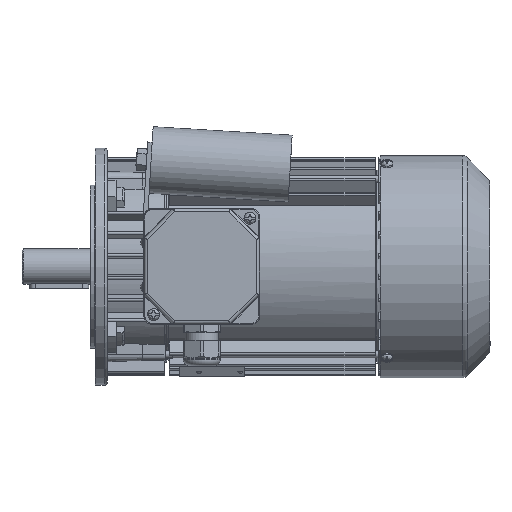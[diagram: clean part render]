
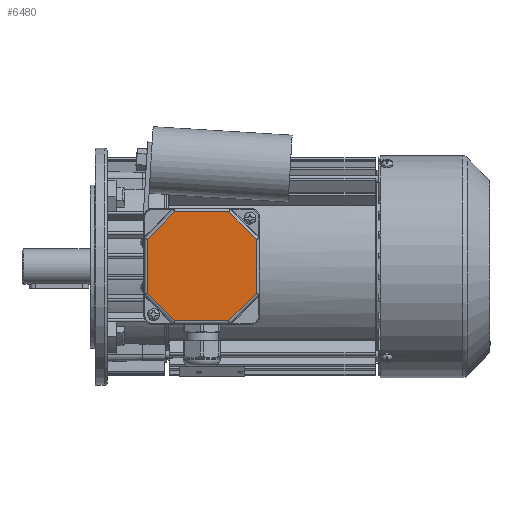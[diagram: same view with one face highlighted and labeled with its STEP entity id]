
A CAD part, top view. The second image highlights one B-rep face of the part: STEP entity #6480.
In plain terms, the highlighted planar face has unit normal (0, 0, 1).
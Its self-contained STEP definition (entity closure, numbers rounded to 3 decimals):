
#6480 = ADVANCED_FACE( '', ( #13379 ), #13380, .T. );
#13379 = FACE_OUTER_BOUND( '', #30231, .T. );
#13380 = PLANE( '', #30232 );
#30231 = EDGE_LOOP( '', ( #51913, #51914, #51915, #51916, #51917, #51918, #51919, #51920 ) );
#30232 = AXIS2_PLACEMENT_3D( '', #51921, #51922, #51923 );
#51913 = ORIENTED_EDGE( '', *, *, #63727, .T. );
#51914 = ORIENTED_EDGE( '', *, *, #62099, .T. );
#51915 = ORIENTED_EDGE( '', *, *, #64331, .T. );
#51916 = ORIENTED_EDGE( '', *, *, #62618, .T. );
#51917 = ORIENTED_EDGE( '', *, *, #64678, .T. );
#51918 = ORIENTED_EDGE( '', *, *, #62628, .T. );
#51919 = ORIENTED_EDGE( '', *, *, #64679, .T. );
#51920 = ORIENTED_EDGE( '', *, *, #63882, .T. );
#51921 = CARTESIAN_POINT( '', ( -39., 39., 12. ) );
#51922 = DIRECTION( '', ( 0., 0., 1. ) );
#51923 = DIRECTION( '', ( 1., 0., 0. ) );
#62099 = EDGE_CURVE( '', #74989, #74990, #74991, .T. );
#62618 = EDGE_CURVE( '', #75676, #75677, #75678, .T. );
#62628 = EDGE_CURVE( '', #73124, #70504, #75692, .T. );
#63727 = EDGE_CURVE( '', #75847, #74989, #77112, .F. );
#63882 = EDGE_CURVE( '', #74848, #75847, #77297, .T. );
#64331 = EDGE_CURVE( '', #74990, #75676, #77819, .F. );
#64678 = EDGE_CURVE( '', #75677, #73124, #78190, .F. );
#64679 = EDGE_CURVE( '', #70504, #74848, #78191, .F. );
#70504 = VERTEX_POINT( '', #85978 );
#73124 = VERTEX_POINT( '', #93269 );
#74848 = VERTEX_POINT( '', #97673 );
#74989 = VERTEX_POINT( '', #98153 );
#74990 = VERTEX_POINT( '', #98154 );
#74991 = LINE( '', #98155, #98156 );
#75676 = VERTEX_POINT( '', #99947 );
#75677 = VERTEX_POINT( '', #99948 );
#75678 = LINE( '', #99949, #99950 );
#75692 = LINE( '', #99965, #99966 );
#75847 = VERTEX_POINT( '', #100480 );
#77112 = LINE( '', #103832, #103833 );
#77297 = LINE( '', #104315, #104316 );
#77819 = LINE( '', #105735, #105736 );
#78190 = LINE( '', #106502, #106503 );
#78191 = LINE( '', #106504, #106505 );
#85978 = CARTESIAN_POINT( '', ( -18.255, -36.825, 12. ) );
#93269 = CARTESIAN_POINT( '', ( -36.825, -18.255, 12. ) );
#97673 = CARTESIAN_POINT( '', ( 18.255, -36.825, 12. ) );
#98153 = CARTESIAN_POINT( '', ( 36.825, 18.255, 12. ) );
#98154 = CARTESIAN_POINT( '', ( 18.255, 36.825, 12. ) );
#98155 = CARTESIAN_POINT( '', ( 17.679, 37.401, 12. ) );
#98156 = VECTOR( '', #115770, 1000. );
#99947 = CARTESIAN_POINT( '', ( -18.255, 36.825, 12. ) );
#99948 = CARTESIAN_POINT( '', ( -36.825, 18.255, 12. ) );
#99949 = CARTESIAN_POINT( '', ( -37.401, 17.679, 12. ) );
#99950 = VECTOR( '', #116249, 1000. );
#99965 = CARTESIAN_POINT( '', ( -17.679, -37.401, 12. ) );
#99966 = VECTOR( '', #116266, 1000. );
#100480 = CARTESIAN_POINT( '', ( 36.825, -18.255, 12. ) );
#103832 = CARTESIAN_POINT( '', ( 36.825, 19.069, 12. ) );
#103833 = VECTOR( '', #117275, 1000. );
#104315 = CARTESIAN_POINT( '', ( 37.401, -17.679, 12. ) );
#104316 = VECTOR( '', #117400, 1000. );
#105735 = CARTESIAN_POINT( '', ( -19.069, 36.825, 12. ) );
#105736 = VECTOR( '', #117775, 1000. );
#106502 = CARTESIAN_POINT( '', ( -36.825, -19.069, 12. ) );
#106503 = VECTOR( '', #118007, 1000. );
#106504 = CARTESIAN_POINT( '', ( 19.069, -36.825, 12. ) );
#106505 = VECTOR( '', #118008, 1000. );
#115770 = DIRECTION( '', ( -0.707, 0.707, 0. ) );
#116249 = DIRECTION( '', ( -0.707, -0.707, 0. ) );
#116266 = DIRECTION( '', ( 0.707, -0.707, 0. ) );
#117275 = DIRECTION( '', ( 0., -1., 0. ) );
#117400 = DIRECTION( '', ( 0.707, 0.707, 0. ) );
#117775 = DIRECTION( '', ( 1., 0., 0. ) );
#118007 = DIRECTION( '', ( 0., 1., 0. ) );
#118008 = DIRECTION( '', ( -1., 0., 0. ) );
